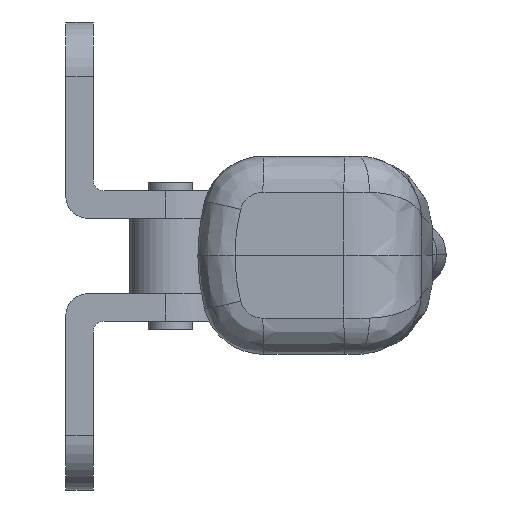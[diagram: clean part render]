
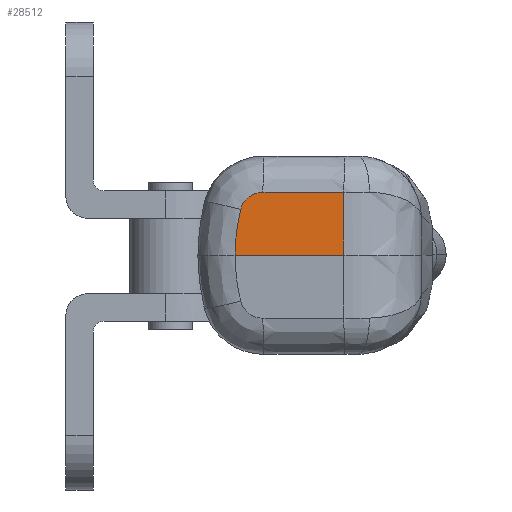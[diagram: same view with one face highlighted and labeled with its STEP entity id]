
A CAD part, front view. The second image highlights one B-rep face of the part: STEP entity #28512.
In plain terms, the highlighted planar face has unit normal (-0.022, -1, 0.018) as drawn and (-0.018, 0, 1) by its records, which use the part's own axes.
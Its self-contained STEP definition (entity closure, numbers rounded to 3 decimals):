
#23 = VECTOR ( 'NONE', #13326, 1000. ) ;
#306 = VERTEX_POINT ( 'NONE', #1512 ) ;
#372 = DIRECTION ( 'NONE',  ( -0.018, 0., 1. ) ) ;
#1022 = B_SPLINE_CURVE_WITH_KNOTS ( 'NONE', 3,
 ( #19433, #32444, #22056, #6431 ),
 .UNSPECIFIED., .F., .F.,
 ( 4, 4 ),
 ( 0., 1. ),
 .UNSPECIFIED. ) ;
#1052 = ORIENTED_EDGE ( 'NONE', *, *, #12537, .T. ) ;
#1225 = VECTOR ( 'NONE', #30839, 1000. ) ;
#1512 = CARTESIAN_POINT ( 'NONE',  ( 66.129, -206.996, 8.832 ) ) ;
#2337 = CARTESIAN_POINT ( 'NONE',  ( 57.745, -225.823, 8.683 ) ) ;
#2361 = ORIENTED_EDGE ( 'NONE', *, *, #12067, .T. ) ;
#2483 = CARTESIAN_POINT ( 'NONE',  ( 54.643, -221.754, 8.627 ) ) ;
#2561 = DIRECTION ( 'NONE',  ( 0., -1., 0. ) ) ;
#2574 = AXIS2_PLACEMENT_3D ( 'NONE', #16039, #372, #18647 ) ;
#2606 = CARTESIAN_POINT ( 'NONE',  ( 56.444, -225.238, 8.659 ) ) ;
#3792 = EDGE_CURVE ( 'NONE', #20938, #22249, #7408, .T. ) ;
#5121 = CARTESIAN_POINT ( 'NONE',  ( 54.755, -222.747, 8.629 ) ) ;
#5232 = CARTESIAN_POINT ( 'NONE',  ( 57.295, -225.712, 8.675 ) ) ;
#6431 = CARTESIAN_POINT ( 'NONE',  ( 66.129, -226.833, 8.832 ) ) ;
#6499 = FACE_OUTER_BOUND ( 'NONE', #15118, .T. ) ;
#7286 = CARTESIAN_POINT ( 'NONE',  ( 54.672, -222.345, 8.628 ) ) ;
#7408 = B_SPLINE_CURVE_WITH_KNOTS ( 'NONE', 3,
 ( #2483, #33729, #7286, #5121, #23370, #7731, #25997, #10379, #28616, #13008, #31222, #15634, #33841, #18223, #2606, #20856, #5232, #23485 ),
 .UNSPECIFIED., .F., .F.,
 ( 4, 1, 1, 2, 2, 2, 1, 1, 2, 2, 4 ),
 ( 0., 0.125, 0.187, 0.219, 0.25, 0.5, 0.625, 0.688, 0.719, 0.75, 1. ),
 .UNSPECIFIED. ) ;
#7582 = CARTESIAN_POINT ( 'NONE',  ( 54.645, -206.983, 8.627 ) ) ;
#7731 = CARTESIAN_POINT ( 'NONE',  ( 54.835, -223.03, 8.631 ) ) ;
#8163 = ORIENTED_EDGE ( 'NONE', *, *, #3792, .T. ) ;
#8187 = LINE ( 'NONE', #20353, #1225 ) ;
#9480 = EDGE_CURVE ( 'NONE', #306, #30408, #26985, .T. ) ;
#10379 = CARTESIAN_POINT ( 'NONE',  ( 55.02, -223.579, 8.634 ) ) ;
#10681 = CARTESIAN_POINT ( 'NONE',  ( 54.645, -206.983, 8.627 ) ) ;
#11495 = LINE ( 'NONE', #10681, #25369 ) ;
#12067 = EDGE_CURVE ( 'NONE', #33622, #20938, #11495, .T. ) ;
#12537 = EDGE_CURVE ( 'NONE', #306, #33622, #8187, .T. ) ;
#12553 = ORIENTED_EDGE ( 'NONE', *, *, #16753, .T. ) ;
#13008 = CARTESIAN_POINT ( 'NONE',  ( 55.65, -224.528, 8.645 ) ) ;
#13326 = DIRECTION ( 'NONE',  ( 0., -1., 0. ) ) ;
#15118 = EDGE_LOOP ( 'NONE', ( #12553, #28733, #1052, #2361, #8163 ) ) ;
#15634 = CARTESIAN_POINT ( 'NONE',  ( 56.174, -225.037, 8.655 ) ) ;
#16039 = CARTESIAN_POINT ( 'NONE',  ( 66.129, -214.303, 8.832 ) ) ;
#16753 = EDGE_CURVE ( 'NONE', #22249, #30408, #1022, .T. ) ;
#18223 = CARTESIAN_POINT ( 'NONE',  ( 56.399, -225.206, 8.659 ) ) ;
#18326 = CARTESIAN_POINT ( 'NONE',  ( 66.129, -214.303, 8.832 ) ) ;
#18647 = DIRECTION ( 'NONE',  ( 1., 0., 0.018 ) ) ;
#19433 = CARTESIAN_POINT ( 'NONE',  ( 57.745, -225.823, 8.683 ) ) ;
#20353 = CARTESIAN_POINT ( 'NONE',  ( 66.129, -206.996, 8.832 ) ) ;
#20810 = CARTESIAN_POINT ( 'NONE',  ( 54.643, -221.754, 8.627 ) ) ;
#20856 = CARTESIAN_POINT ( 'NONE',  ( 56.878, -225.528, 8.667 ) ) ;
#20938 = VERTEX_POINT ( 'NONE', #20810 ) ;
#22056 = CARTESIAN_POINT ( 'NONE',  ( 63.296, -226.838, 8.782 ) ) ;
#22249 = VERTEX_POINT ( 'NONE', #2337 ) ;
#22909 = CARTESIAN_POINT ( 'NONE',  ( 66.129, -226.833, 8.832 ) ) ;
#23370 = CARTESIAN_POINT ( 'NONE',  ( 54.802, -222.917, 8.63 ) ) ;
#23485 = CARTESIAN_POINT ( 'NONE',  ( 57.745, -225.823, 8.683 ) ) ;
#23780 = PLANE ( 'NONE',  #2574 ) ;
#25369 = VECTOR ( 'NONE', #2561, 1000. ) ;
#25997 = CARTESIAN_POINT ( 'NONE',  ( 54.853, -223.088, 8.631 ) ) ;
#26985 = LINE ( 'NONE', #18326, #23 ) ;
#28512 = ADVANCED_FACE ( 'NONE', ( #6499 ), #23780, .T. ) ;
#28616 = CARTESIAN_POINT ( 'NONE',  ( 55.234, -223.981, 8.638 ) ) ;
#28733 = ORIENTED_EDGE ( 'NONE', *, *, #9480, .F. ) ;
#30408 = VERTEX_POINT ( 'NONE', #22909 ) ;
#30839 = DIRECTION ( 'NONE',  ( -1., 0.001, -0.018 ) ) ;
#31222 = CARTESIAN_POINT ( 'NONE',  ( 55.877, -224.78, 8.649 ) ) ;
#32444 = CARTESIAN_POINT ( 'NONE',  ( 60.501, -226.501, 8.732 ) ) ;
#33622 = VERTEX_POINT ( 'NONE', #7582 ) ;
#33729 = CARTESIAN_POINT ( 'NONE',  ( 54.643, -221.992, 8.627 ) ) ;
#33841 = CARTESIAN_POINT ( 'NONE',  ( 56.308, -225.14, 8.657 ) ) ;
